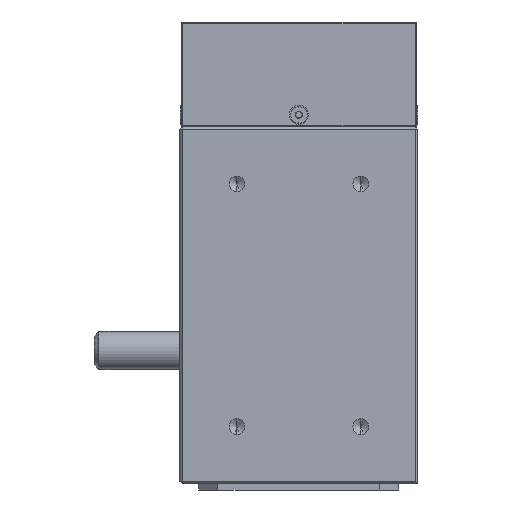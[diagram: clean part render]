
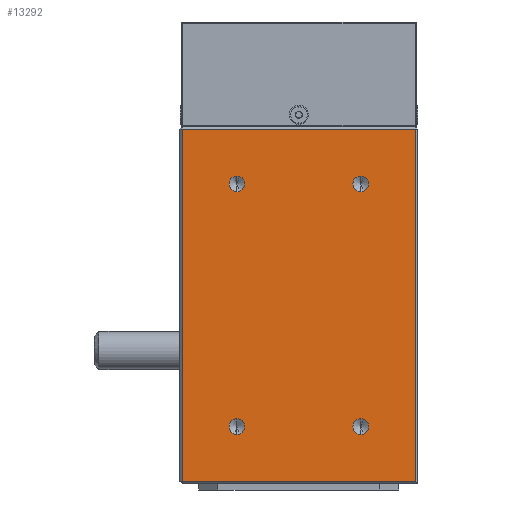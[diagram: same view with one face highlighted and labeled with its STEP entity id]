
A CAD part, left-side view. The second image highlights one B-rep face of the part: STEP entity #13292.
In plain terms, the highlighted planar face has unit normal (-1, 0, 0).
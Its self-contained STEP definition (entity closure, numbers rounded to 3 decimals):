
#4432 = CARTESIAN_POINT ( 'NONE',  ( -54.857, 13.708, -19.372 ) ) ;
#4434 = CARTESIAN_POINT ( 'NONE',  ( -54.857, 13.708, -16.072 ) ) ;
#4441 = CARTESIAN_POINT ( 'NONE',  ( -54.857, 13.708, -70.372 ) ) ;
#4443 = CARTESIAN_POINT ( 'NONE',  ( -54.857, 13.708, -67.072 ) ) ;
#4450 = CARTESIAN_POINT ( 'NONE',  ( -54.857, -12.292, -70.372 ) ) ;
#4451 = CARTESIAN_POINT ( 'NONE',  ( -54.857, -12.292, -67.072 ) ) ;
#4458 = CARTESIAN_POINT ( 'NONE',  ( -54.857, -12.292, -19.372 ) ) ;
#4460 = CARTESIAN_POINT ( 'NONE',  ( -54.857, -12.292, -16.072 ) ) ;
#4525 = CARTESIAN_POINT ( 'NONE',  ( -54.857, 25.208, -80.222 ) ) ;
#4534 = CARTESIAN_POINT ( 'NONE',  ( -54.857, 25.208, -6.222 ) ) ;
#4537 = CARTESIAN_POINT ( 'NONE',  ( -54.857, -23.792, -80.222 ) ) ;
#4539 = CARTESIAN_POINT ( 'NONE',  ( -54.857, -23.792, -6.222 ) ) ;
#5731 = VERTEX_POINT ( 'NONE', #4432 ) ;
#5732 = VERTEX_POINT ( 'NONE', #4434 ) ;
#5736 = VERTEX_POINT ( 'NONE', #4441 ) ;
#5737 = VERTEX_POINT ( 'NONE', #4443 ) ;
#5741 = VERTEX_POINT ( 'NONE', #4450 ) ;
#5742 = VERTEX_POINT ( 'NONE', #4451 ) ;
#5746 = VERTEX_POINT ( 'NONE', #4458 ) ;
#5747 = VERTEX_POINT ( 'NONE', #4460 ) ;
#5784 = VERTEX_POINT ( 'NONE', #4525 ) ;
#5789 = VERTEX_POINT ( 'NONE', #4534 ) ;
#5791 = VERTEX_POINT ( 'NONE', #4537 ) ;
#5792 = VERTEX_POINT ( 'NONE', #4539 ) ;
#6041 = ORIENTED_EDGE ( 'NONE', *, *, #17585, .F. ) ;
#6044 = ORIENTED_EDGE ( 'NONE', *, *, #17517, .F. ) ;
#6046 = ORIENTED_EDGE ( 'NONE', *, *, #17572, .F. ) ;
#6049 = ORIENTED_EDGE ( 'NONE', *, *, #17563, .F. ) ;
#6052 = ORIENTED_EDGE ( 'NONE', *, *, #17608, .F. ) ;
#6055 = ORIENTED_EDGE ( 'NONE', *, *, #17594, .F. ) ;
#6058 = ORIENTED_EDGE ( 'NONE', *, *, #17551, .F. ) ;
#6060 = ORIENTED_EDGE ( 'NONE', *, *, #17632, .F. ) ;
#6063 = ORIENTED_EDGE ( 'NONE', *, *, #17637, .T. ) ;
#6066 = ORIENTED_EDGE ( 'NONE', *, *, #17639, .T. ) ;
#6069 = ORIENTED_EDGE ( 'NONE', *, *, #17642, .T. ) ;
#6072 = ORIENTED_EDGE ( 'NONE', *, *, #17646, .T. ) ;
#7414 = EDGE_LOOP ( 'NONE', ( #6044, #6041 ) ) ;
#7415 = EDGE_LOOP ( 'NONE', ( #6049, #6046 ) ) ;
#7416 = EDGE_LOOP ( 'NONE', ( #6055, #6052 ) ) ;
#7418 = EDGE_LOOP ( 'NONE', ( #6060, #6058 ) ) ;
#7426 = EDGE_LOOP ( 'NONE', ( #6072, #6069, #6066, #6063 ) ) ;
#13292 = ADVANCED_FACE ( 'NONE', ( #21439, #21441, #21437, #21438, #21431 ), #21443, .F. ) ;
#17517 = EDGE_CURVE ( 'NONE', #5747, #5746, #27388, .T. ) ;
#17551 = EDGE_CURVE ( 'NONE', #5731, #5732, #27441, .T. ) ;
#17563 = EDGE_CURVE ( 'NONE', #5742, #5741, #27458, .T. ) ;
#17572 = EDGE_CURVE ( 'NONE', #5741, #5742, #27474, .T. ) ;
#17585 = EDGE_CURVE ( 'NONE', #5746, #5747, #27492, .T. ) ;
#17594 = EDGE_CURVE ( 'NONE', #5737, #5736, #27502, .T. ) ;
#17608 = EDGE_CURVE ( 'NONE', #5736, #5737, #27524, .T. ) ;
#17632 = EDGE_CURVE ( 'NONE', #5732, #5731, #27553, .T. ) ;
#17637 = EDGE_CURVE ( 'NONE', #5792, #5789, #29336, .T. ) ;
#17639 = EDGE_CURVE ( 'NONE', #5791, #5792, #29345, .T. ) ;
#17642 = EDGE_CURVE ( 'NONE', #5784, #5791, #29373, .T. ) ;
#17646 = EDGE_CURVE ( 'NONE', #5789, #5784, #29404, .T. ) ;
#21431 = FACE_BOUND ( 'NONE', #7414, .T. ) ;
#21437 = FACE_BOUND ( 'NONE', #7416, .T. ) ;
#21438 = FACE_BOUND ( 'NONE', #7415, .T. ) ;
#21439 = FACE_OUTER_BOUND ( 'NONE', #7426, .T. ) ;
#21441 = FACE_BOUND ( 'NONE', #7418, .T. ) ;
#21442 = CARTESIAN_POINT ( 'NONE',  ( -54.857, 25.708, -80.722 ) ) ;
#21443 = PLANE ( 'NONE',  #41775 ) ;
#21444 = DIRECTION ( 'NONE',  ( 1., 0., 0. ) ) ;
#21445 = DIRECTION ( 'NONE',  ( 0., 0., -1. ) ) ;
#27388 = CIRCLE ( 'NONE', #27390, 1.65 ) ;
#27390 = AXIS2_PLACEMENT_3D ( 'NONE', #28613, #28615, #28617 ) ;
#27441 = CIRCLE ( 'NONE', #27445, 1.65 ) ;
#27445 = AXIS2_PLACEMENT_3D ( 'NONE', #28819, #28821, #28822 ) ;
#27458 = CIRCLE ( 'NONE', #27464, 1.65 ) ;
#27464 = AXIS2_PLACEMENT_3D ( 'NONE', #28891, #28892, #28893 ) ;
#27474 = CIRCLE ( 'NONE', #27477, 1.65 ) ;
#27477 = AXIS2_PLACEMENT_3D ( 'NONE', #28944, #28945, #28947 ) ;
#27492 = CIRCLE ( 'NONE', #27496, 1.65 ) ;
#27496 = AXIS2_PLACEMENT_3D ( 'NONE', #29024, #29025, #29027 ) ;
#27502 = CIRCLE ( 'NONE', #27508, 1.65 ) ;
#27508 = AXIS2_PLACEMENT_3D ( 'NONE', #29075, #29077, #29078 ) ;
#27524 = CIRCLE ( 'NONE', #27526, 1.65 ) ;
#27526 = AXIS2_PLACEMENT_3D ( 'NONE', #29162, #29164, #29165 ) ;
#27553 = CIRCLE ( 'NONE', #27558, 1.65 ) ;
#27558 = AXIS2_PLACEMENT_3D ( 'NONE', #29320, #29322, #29324 ) ;
#27563 = VECTOR ( 'NONE', #29356, 1000. ) ;
#27565 = VECTOR ( 'NONE', #29367, 1000. ) ;
#27566 = VECTOR ( 'NONE', #29386, 1000. ) ;
#27573 = VECTOR ( 'NONE', #29412, 1000. ) ;
#28613 = CARTESIAN_POINT ( 'NONE',  ( -54.857, -12.292, -17.722 ) ) ;
#28615 = DIRECTION ( 'NONE',  ( -1., 0., 0. ) ) ;
#28617 = DIRECTION ( 'NONE',  ( 0., 0., 1. ) ) ;
#28819 = CARTESIAN_POINT ( 'NONE',  ( -54.857, 13.708, -17.722 ) ) ;
#28821 = DIRECTION ( 'NONE',  ( -1., 0., 0. ) ) ;
#28822 = DIRECTION ( 'NONE',  ( 0., 0., 1. ) ) ;
#28891 = CARTESIAN_POINT ( 'NONE',  ( -54.857, -12.292, -68.722 ) ) ;
#28892 = DIRECTION ( 'NONE',  ( -1., 0., 0. ) ) ;
#28893 = DIRECTION ( 'NONE',  ( 0., 0., 1. ) ) ;
#28944 = CARTESIAN_POINT ( 'NONE',  ( -54.857, -12.292, -68.722 ) ) ;
#28945 = DIRECTION ( 'NONE',  ( -1., 0., 0. ) ) ;
#28947 = DIRECTION ( 'NONE',  ( 0., 0., 1. ) ) ;
#29024 = CARTESIAN_POINT ( 'NONE',  ( -54.857, -12.292, -17.722 ) ) ;
#29025 = DIRECTION ( 'NONE',  ( -1., 0., 0. ) ) ;
#29027 = DIRECTION ( 'NONE',  ( 0., 0., 1. ) ) ;
#29075 = CARTESIAN_POINT ( 'NONE',  ( -54.857, 13.708, -68.722 ) ) ;
#29077 = DIRECTION ( 'NONE',  ( -1., 0., 0. ) ) ;
#29078 = DIRECTION ( 'NONE',  ( 0., 0., 1. ) ) ;
#29162 = CARTESIAN_POINT ( 'NONE',  ( -54.857, 13.708, -68.722 ) ) ;
#29164 = DIRECTION ( 'NONE',  ( -1., 0., 0. ) ) ;
#29165 = DIRECTION ( 'NONE',  ( 0., 0., 1. ) ) ;
#29320 = CARTESIAN_POINT ( 'NONE',  ( -54.857, 13.708, -17.722 ) ) ;
#29322 = DIRECTION ( 'NONE',  ( -1., 0., 0. ) ) ;
#29324 = DIRECTION ( 'NONE',  ( 0., 0., 1. ) ) ;
#29336 = LINE ( 'NONE', #29337, #27563 ) ;
#29337 = CARTESIAN_POINT ( 'NONE',  ( -54.857, 25.708, -6.222 ) ) ;
#29345 = LINE ( 'NONE', #29364, #27565 ) ;
#29356 = DIRECTION ( 'NONE',  ( 0., 1., 0. ) ) ;
#29364 = CARTESIAN_POINT ( 'NONE',  ( -54.857, -23.792, -80.722 ) ) ;
#29367 = DIRECTION ( 'NONE',  ( 0., 0., 1. ) ) ;
#29373 = LINE ( 'NONE', #29383, #27566 ) ;
#29383 = CARTESIAN_POINT ( 'NONE',  ( -54.857, 25.708, -80.222 ) ) ;
#29386 = DIRECTION ( 'NONE',  ( 0., -1., 0. ) ) ;
#29397 = CARTESIAN_POINT ( 'NONE',  ( -54.857, 25.208, -80.722 ) ) ;
#29404 = LINE ( 'NONE', #29397, #27573 ) ;
#29412 = DIRECTION ( 'NONE',  ( 0., 0., -1. ) ) ;
#41775 = AXIS2_PLACEMENT_3D ( 'NONE', #21442, #21444, #21445 ) ;
